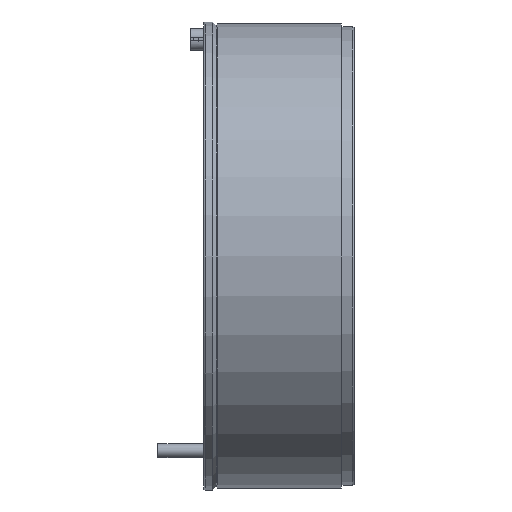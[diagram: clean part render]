
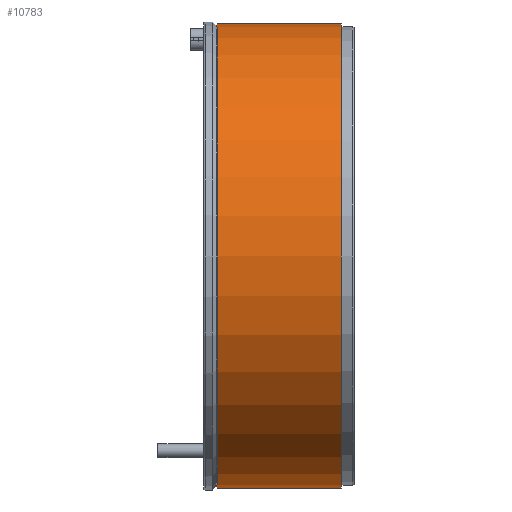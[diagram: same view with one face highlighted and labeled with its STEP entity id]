
A CAD part, left-side view. The second image highlights one B-rep face of the part: STEP entity #10783.
In plain terms, the highlighted cylindrical face has radius 247 mm (diameter 494 mm), a partial arc.
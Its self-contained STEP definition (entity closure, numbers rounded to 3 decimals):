
#268 = CARTESIAN_POINT ( 'NONE',  ( 0., 0., 247. ) ) ;
#408 = DIRECTION ( 'NONE',  ( 0., -1., 0. ) ) ;
#616 = DIRECTION ( 'NONE',  ( 0., -1., 0. ) ) ;
#647 = CARTESIAN_POINT ( 'NONE',  ( 0., 14., -247. ) ) ;
#816 = DIRECTION ( 'NONE',  ( 0., -1., 0. ) ) ;
#890 = CYLINDRICAL_SURFACE ( 'NONE', #3949, 247. ) ;
#1353 = EDGE_CURVE ( 'NONE', #9775, #10746, #14050, .T. ) ;
#1633 = EDGE_LOOP ( 'NONE', ( #7927, #10838, #7768, #4320 ) ) ;
#1687 = CARTESIAN_POINT ( 'NONE',  ( 0., 14., 0. ) ) ;
#1735 = DIRECTION ( 'NONE',  ( 0., -1., 0. ) ) ;
#1876 = CARTESIAN_POINT ( 'NONE',  ( 0., 146., 0. ) ) ;
#3416 = CARTESIAN_POINT ( 'NONE',  ( 0., 14., 247. ) ) ;
#3606 = CIRCLE ( 'NONE', #7869, 247. ) ;
#3949 = AXIS2_PLACEMENT_3D ( 'NONE', #6219, #816, #8311 ) ;
#4320 = ORIENTED_EDGE ( 'NONE', *, *, #1353, .F. ) ;
#5149 = VECTOR ( 'NONE', #1735, 1000. ) ;
#5810 = AXIS2_PLACEMENT_3D ( 'NONE', #1687, #616, #10249 ) ;
#6130 = VERTEX_POINT ( 'NONE', #7693 ) ;
#6219 = CARTESIAN_POINT ( 'NONE',  ( 0., 0., 0. ) ) ;
#6637 = VERTEX_POINT ( 'NONE', #8811 ) ;
#7693 = CARTESIAN_POINT ( 'NONE',  ( 0., 146., -247. ) ) ;
#7768 = ORIENTED_EDGE ( 'NONE', *, *, #10104, .T. ) ;
#7869 = AXIS2_PLACEMENT_3D ( 'NONE', #1876, #12800, #9626 ) ;
#7927 = ORIENTED_EDGE ( 'NONE', *, *, #8181, .F. ) ;
#8181 = EDGE_CURVE ( 'NONE', #6637, #9775, #8680, .T. ) ;
#8311 = DIRECTION ( 'NONE',  ( 0., 0., -1. ) ) ;
#8680 = LINE ( 'NONE', #268, #11423 ) ;
#8811 = CARTESIAN_POINT ( 'NONE',  ( 0., 146., 247. ) ) ;
#9626 = DIRECTION ( 'NONE',  ( 0., 0., -1. ) ) ;
#9775 = VERTEX_POINT ( 'NONE', #3416 ) ;
#10104 = EDGE_CURVE ( 'NONE', #6130, #10746, #10443, .T. ) ;
#10243 = EDGE_CURVE ( 'NONE', #6637, #6130, #3606, .T. ) ;
#10249 = DIRECTION ( 'NONE',  ( 0., 0., -1. ) ) ;
#10443 = LINE ( 'NONE', #13637, #5149 ) ;
#10746 = VERTEX_POINT ( 'NONE', #647 ) ;
#10783 = ADVANCED_FACE ( 'NONE', ( #11948 ), #890, .T. ) ;
#10838 = ORIENTED_EDGE ( 'NONE', *, *, #10243, .T. ) ;
#11423 = VECTOR ( 'NONE', #408, 1000. ) ;
#11948 = FACE_OUTER_BOUND ( 'NONE', #1633, .T. ) ;
#12800 = DIRECTION ( 'NONE',  ( 0., -1., 0. ) ) ;
#13637 = CARTESIAN_POINT ( 'NONE',  ( 0., 0., -247. ) ) ;
#14050 = CIRCLE ( 'NONE', #5810, 247. ) ;
